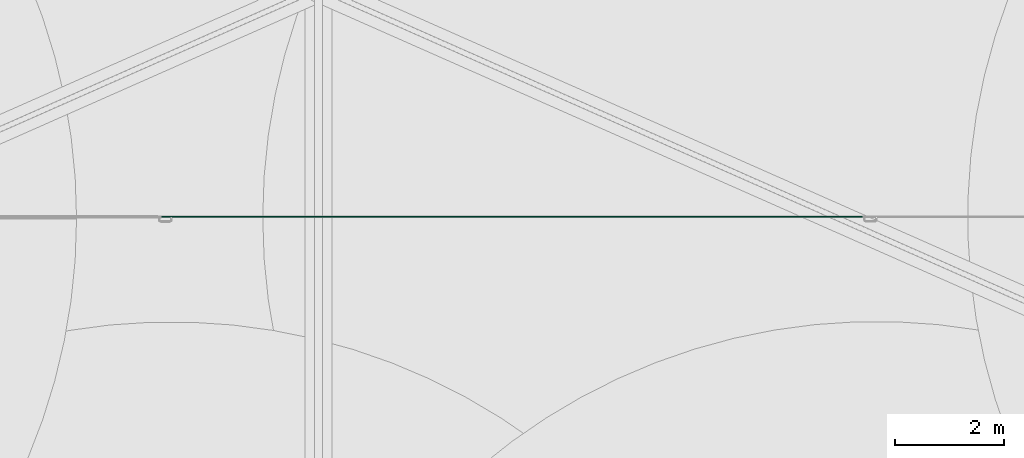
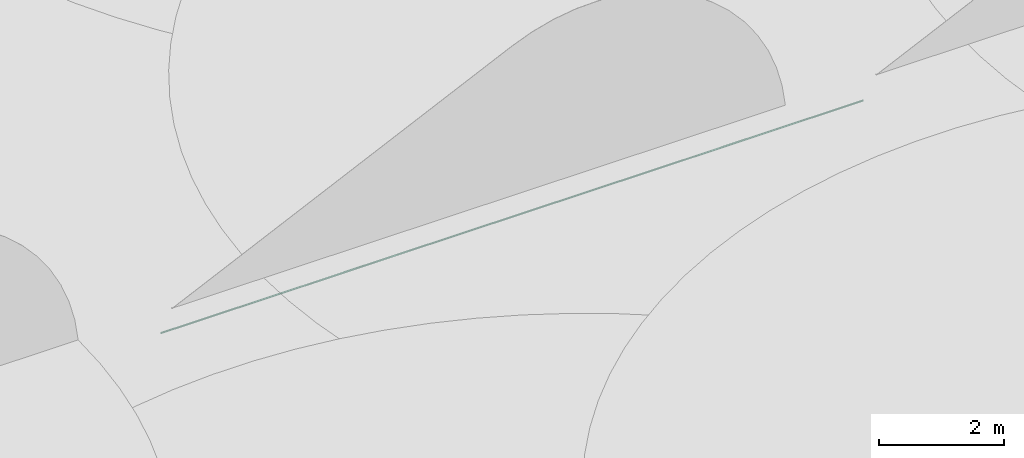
# One storey, part 30 of 166: 1 flow segment.
"""IFC2X3 building model written with IfcOpenShell, lengths in metres."""

from ifc_helpers import new_model, entity, si_unit, converted_unit, direction, frame, origin, origin_2d_with_axis, place, context, subcontext, project, spatial, circle, extrude, type_object, element, save


model = new_model("IFC2X3")

# Units and contexts
model_context = context("Model", 3, precision=1e-05, world=origin(), true_north=direction((6.123233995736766e-17, 1.0)))
body_context = subcontext(model_context, "Body", "Model", "MODEL_VIEW")
ifc_project = project(units=[si_unit("LENGTHUNIT", "METRE"), converted_unit("PLANEANGLEUNIT", "DEGREE", entity("IfcPlaneAngleMeasure", 0.017453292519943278), si_unit("PLANEANGLEUNIT", "RADIAN"), dimensions=[0, 0, 0, 0, 0, 0, 0]), si_unit("AREAUNIT", "SQUARE_METRE")], contexts=[model_context])

# Site, building, storey
site_placement = place(None, origin())
site = spatial("IfcSite", under=ifc_project, at=site_placement, Name="Default", CompositionType="ELEMENT")
building_placement = place(site_placement, origin())
building = spatial("IfcBuilding", under=site, at=building_placement, Name="CASA DE ACOLHIDA PARA IDOSOS", CompositionType="ELEMENT")
storey_placement = place(building_placement, frame((0.0, 0.0, -1.7499999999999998)))
storey = spatial("IfcBuildingStorey", under=building, at=storey_placement, Name="IMPLANTAÇÃO DRENAGEM", CompositionType="ELEMENT", Elevation=-1.7499999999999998)

# Flow segment
pipe_segment_type = type_object("IfcPipeSegmentType", Name="Tipos de tubos:AF_Tubo Marrom Soldável", PredefinedType="NOTDEFINED")
flow_segment_placement = place(storey_placement, origin())
element("IfcFlowSegment", 1, at=flow_segment_placement, inside=storey, type_object=pipe_segment_type, Name="Tipos de tubos:AF_Tubo Marrom Soldável", ObjectType="Tipos de tubos:AF_Tubo Marrom Soldável", context=body_context, shape_type="SweptSolid", body=[
    extrude(circle(Radius=0.0125, at=origin_2d_with_axis()), frame((20.06475371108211, 9.654942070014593, -0.19999999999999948), z_axis=(1.0, 0.0, 0.0), x_axis=(0.0, -1.0, 0.0)), (0.0, 0.0, 1.0), 12.928397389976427),
])

save(model, "model.ifc")
